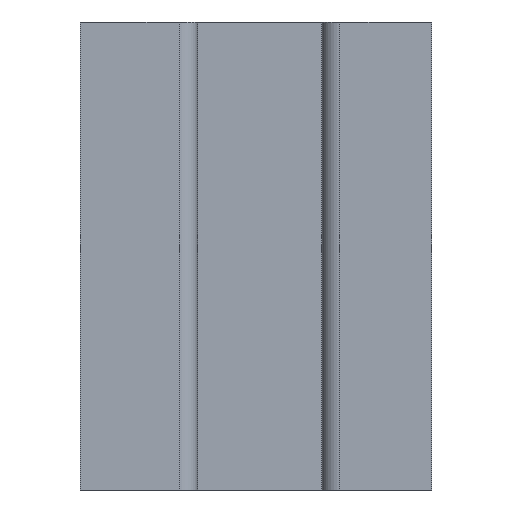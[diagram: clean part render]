
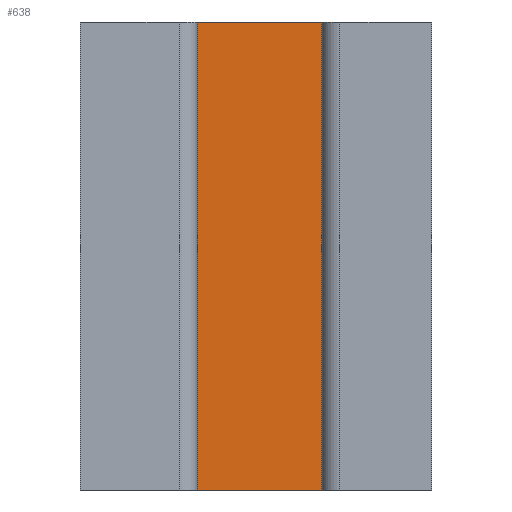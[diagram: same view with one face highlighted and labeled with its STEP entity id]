
A CAD part, left-side view. The second image highlights one B-rep face of the part: STEP entity #638.
In plain terms, the highlighted planar face has unit normal (-1, 0, 0).
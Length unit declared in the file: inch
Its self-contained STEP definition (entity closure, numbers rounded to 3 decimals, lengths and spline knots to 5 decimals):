
#37 = VERTEX_POINT ( 'NONE', #169 ) ;
#68 = LINE ( 'NONE', #222, #344 ) ;
#77 = DIRECTION ( 'NONE',  ( 0., -1., 0. ) ) ;
#102 = DIRECTION ( 'NONE',  ( 0., 0., 1. ) ) ;
#115 = DIRECTION ( 'NONE',  ( 0., 0., 1. ) ) ;
#141 = FACE_OUTER_BOUND ( 'NONE', #364, .T. ) ;
#151 = VERTEX_POINT ( 'NONE', #317 ) ;
#162 = CARTESIAN_POINT ( 'NONE',  ( -3.3455, 0.5, -1. ) ) ;
#169 = CARTESIAN_POINT ( 'NONE',  ( -3.3455, 0.235, 0. ) ) ;
#193 = LINE ( 'NONE', #446, #254 ) ;
#209 = ORIENTED_EDGE ( 'NONE', *, *, #396, .F. ) ;
#222 = CARTESIAN_POINT ( 'NONE',  ( -3.3455, 0.5, 0. ) ) ;
#247 = ORIENTED_EDGE ( 'NONE', *, *, #610, .T. ) ;
#251 = VERTEX_POINT ( 'NONE', #303 ) ;
#254 = VECTOR ( 'NONE', #388, 39.37008 ) ;
#303 = CARTESIAN_POINT ( 'NONE',  ( -3.3455, 0.5, 0. ) ) ;
#317 = CARTESIAN_POINT ( 'NONE',  ( -3.3455, 0.5, -1. ) ) ;
#318 = VECTOR ( 'NONE', #115, 39.37008 ) ;
#326 = DIRECTION ( 'NONE',  ( -1., 0., 0. ) ) ;
#332 = VECTOR ( 'NONE', #102, 39.37008 ) ;
#340 = PLANE ( 'NONE',  #593 ) ;
#344 = VECTOR ( 'NONE', #77, 39.37008 ) ;
#359 = LINE ( 'NONE', #564, #332 ) ;
#362 = EDGE_CURVE ( 'NONE', #435, #37, #359, .T. ) ;
#364 = EDGE_LOOP ( 'NONE', ( #558, #209, #247, #506 ) ) ;
#388 = DIRECTION ( 'NONE',  ( 0., -1., 0. ) ) ;
#396 = EDGE_CURVE ( 'NONE', #151, #251, #413, .T. ) ;
#413 = LINE ( 'NONE', #162, #318 ) ;
#431 = CARTESIAN_POINT ( 'NONE',  ( -3.3455, 0.235, -1. ) ) ;
#435 = VERTEX_POINT ( 'NONE', #431 ) ;
#446 = CARTESIAN_POINT ( 'NONE',  ( -3.3455, 0.5, -1. ) ) ;
#451 = DIRECTION ( 'NONE',  ( 0., -1., 0. ) ) ;
#458 = EDGE_CURVE ( 'NONE', #251, #37, #68, .T. ) ;
#506 = ORIENTED_EDGE ( 'NONE', *, *, #362, .T. ) ;
#549 = CARTESIAN_POINT ( 'NONE',  ( -3.3455, 0.5, -1. ) ) ;
#558 = ORIENTED_EDGE ( 'NONE', *, *, #458, .F. ) ;
#564 = CARTESIAN_POINT ( 'NONE',  ( -3.3455, 0.235, -1. ) ) ;
#593 = AXIS2_PLACEMENT_3D ( 'NONE', #549, #326, #451 ) ;
#610 = EDGE_CURVE ( 'NONE', #151, #435, #193, .T. ) ;
#638 = ADVANCED_FACE ( 'NONE', ( #141 ), #340, .T. ) ;
